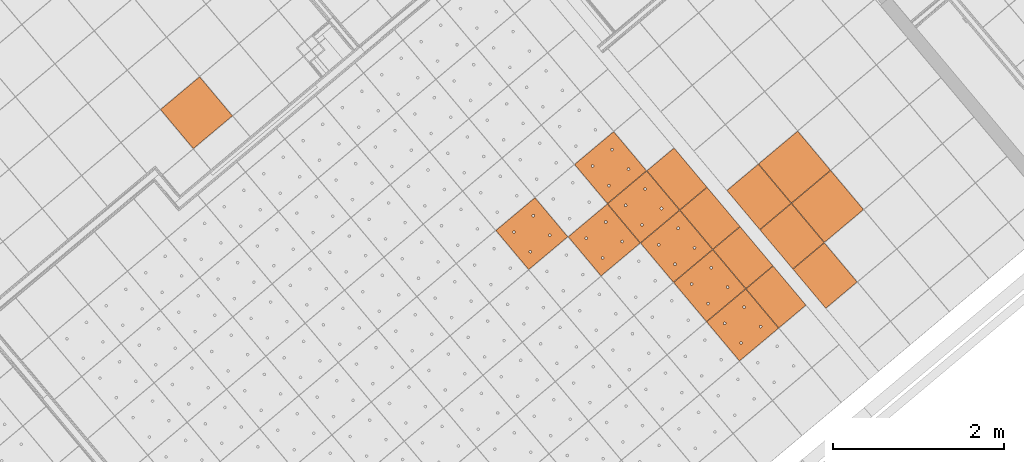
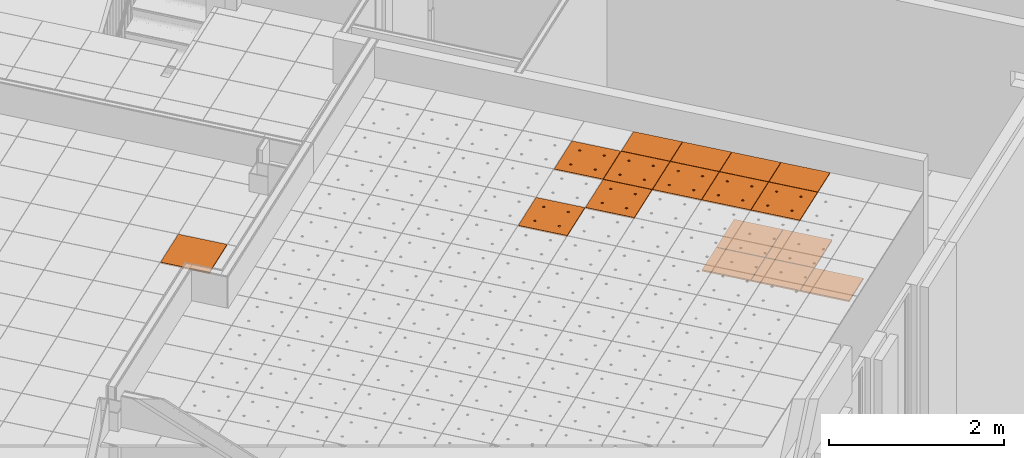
# One storey, part 190 of 338: 17 proxies, 3 elements without a shape of their own.
"""IFC2X3 building model written with IfcOpenShell, lengths in millimetres."""

from ifc_helpers import new_model, entity, si_unit, converted_unit, derived_unit, money_unit, direction, frame, origin_with_axes, place, context, subcontext, project, spatial, faceted_brep, source, transform, mapped, material, type_object, type_shapes, element, aggregate, save


model = new_model("IFC2X3")

# Units and contexts
model_context = context("Model", 3, precision=0.01, world=origin_with_axes(), true_north=direction((0.0, 1.0)))
plan_context = context("Plan", 3, precision=0.01, world=origin_with_axes(), true_north=direction((0.0, 1.0)))
body_context = subcontext(model_context, "Body", "Model", "MODEL_VIEW")
ifc_project = project(units=[si_unit("LENGTHUNIT", "METRE", prefix="MILLI"), si_unit("AREAUNIT", "SQUARE_METRE"), si_unit("VOLUMEUNIT", "CUBIC_METRE"), converted_unit("PLANEANGLEUNIT", "DEGREE", entity("IfcPlaneAngleMeasure", 0.0174532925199), si_unit("PLANEANGLEUNIT", "RADIAN"), dimensions=[0, 0, 0, 0, 0, 0, 0]), money_unit("EUR"), converted_unit("TIMEUNIT", "Year", entity("IfcTimeMeasure", 31556926.0), si_unit("TIMEUNIT", "SECOND"), dimensions=[0, 0, 1, 0, 0, 0, 0]), si_unit("MASSUNIT", "GRAM", prefix="KILO"), si_unit("THERMODYNAMICTEMPERATUREUNIT", "DEGREE_CELSIUS"), si_unit("LUMINOUSINTENSITYUNIT", "LUMEN"), si_unit("ENERGYUNIT", "JOULE", prefix="MEGA"), derived_unit("THERMALCONDUCTANCEUNIT", [(si_unit("POWERUNIT", "WATT"), 1), (si_unit("LENGTHUNIT", "METRE"), -1), (si_unit("THERMODYNAMICTEMPERATUREUNIT", "KELVIN"), -1)]), derived_unit("SPECIFICHEATCAPACITYUNIT", [(si_unit("ENERGYUNIT", "JOULE"), 1), (si_unit("MASSUNIT", "GRAM", prefix="KILO"), -1), (si_unit("THERMODYNAMICTEMPERATUREUNIT", "KELVIN"), -1)]), derived_unit("MASSDENSITYUNIT", [(si_unit("MASSUNIT", "GRAM", prefix="KILO"), 1), (si_unit("VOLUMEUNIT", "CUBIC_METRE"), -1)])], contexts=[model_context, plan_context])

# Site, building, storey
site_placement = place(None, origin_with_axes())
site = spatial("IfcSite", under=ifc_project, at=site_placement, Name="Fortuinstraat Woensdrecht", CompositionType="ELEMENT")
building_placement = place(site_placement, origin_with_axes())
building = spatial("IfcBuilding", under=site, at=building_placement, Name="IKC Fortuna", CompositionType="ELEMENT")
storey_placement = place(building_placement, origin_with_axes())
storey = spatial("IfcBuildingStorey", under=building, at=storey_placement, Name="00 begane grond", CompositionType="ELEMENT", Elevation=0.0)

# Covering, proxies
covering_type = type_object("IfcCoveringType", Name="Curtain Wall Type", PredefinedType="CEILING")
covering_1_placement = place(storey_placement, frame((23826.4460301, -4357.43121765, 2810.0), z_axis=(0.0, 0.0, 1.0), x_axis=(1.0, 0.0, 0.0)))
covering_1 = element("IfcCovering", 1, at=covering_1_placement, inside=storey, type_object=covering_type, Name="45_Plafondafwerking_P02", PredefinedType="CEILING")
ifc_material = material(Name="Gipsplaat")
building_element_proxy_type_1 = type_object("IfcBuildingElementProxyType", Name="Distinct Panel 600 x 600 x 20", PredefinedType="NOTDEFINED")
shared_shape_1 = source(origin_with_axes(), body_context, "Body", "Brep", [
    faceted_brep([(2.49999999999, 2.5, -10.0), (597.5, 2.49999999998, -10.0), (597.5, 2.49999999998, 10.0), (2.49999999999, 2.5, 10.0), (2.50000000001, 597.5, -10.0), (597.5, 597.5, -10.0), (597.5, 597.5, 10.0), (2.50000000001, 597.5, 10.0)], [[[0, 1, 2, 3]], [[0, 4, 5, 1]], [[1, 5, 6, 2]], [[3, 2, 6, 7]], [[4, 0, 3, 7]], [[5, 4, 7, 6]]]),
])
proxy_1_placement = place(covering_1_placement, frame((800.265975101, -111.741309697, 0.0), z_axis=(0.0, 0.0, 1.0), x_axis=(1.0, 0.0, 0.0)))
proxy_1 = element("IfcBuildingElementProxy", 2, at=proxy_1_placement, type_object=building_element_proxy_type_1, material=ifc_material, Name="__Panel-D", context=body_context, shape_type="MappedRepresentation", body=[
    mapped(shared_shape_1, transform((36.9769427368, 422.649625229, 0.0), x_axis=(-0.766044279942, -0.642787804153, 0.0), y_axis=(0.642787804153, -0.766044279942, 0.0), z_axis=(0.0, 0.0, 1.0))),
])
proxy_2_placement = place(covering_1_placement, frame((1185.93865759, -571.367877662, 0.0), z_axis=(0.0, 0.0, 1.0), x_axis=(1.0, 0.0, 0.0)))
proxy_2 = element("IfcBuildingElementProxy", 3, at=proxy_2_placement, type_object=building_element_proxy_type_1, material=ifc_material, Name="__Panel-D", context=body_context, shape_type="MappedRepresentation", body=[
    mapped(shared_shape_1, transform((36.9769427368, 422.649625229, 0.0), x_axis=(-0.766044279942, -0.642787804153, 0.0), y_axis=(0.642787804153, -0.766044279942, 0.0), z_axis=(0.0, 0.0, 1.0))),
])

# Covering, proxy
covering_2_placement = place(storey_placement, frame((17937.1227498, -4186.27868692, 4660.0), z_axis=(0.0, 0.0, 1.0), x_axis=(1.0, 0.0, 0.0)))
covering_2 = element("IfcCovering", 4, at=covering_2_placement, inside=storey, type_object=covering_type, Name="45_Plafondafwerking_P02", PredefinedType="CEILING")
shared_shape_2 = source(origin_with_axes(), body_context, "Body", "Brep", [
    faceted_brep([(2.50000189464, 2.50000510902, -10.0), (597.499994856, 2.50000185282, -10.0), (597.499994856, 2.50000185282, 10.0), (2.50000189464, 2.50000510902, 10.0), (2.4999970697, 597.49998844, -10.0), (597.499988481, 597.500002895, -10.0), (597.499988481, 597.500002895, 10.0), (2.4999970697, 597.49998844, 10.0)], [[[0, 1, 2, 3]], [[0, 4, 5, 1]], [[1, 5, 6, 2]], [[3, 2, 6, 7]], [[4, 0, 3, 7]], [[5, 4, 7, 6]]]),
])
type_shapes(building_element_proxy_type_1, [shared_shape_1, shared_shape_2])
proxy_3_placement = place(covering_2_placement, frame((-295.595072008, 352.276307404, 0.0), z_axis=(0.0, 0.0, 1.0), x_axis=(1.0, 0.0, 0.0)))
proxy_3 = element("IfcBuildingElementProxy", 5, at=proxy_3_placement, type_object=building_element_proxy_type_1, material=ifc_material, Name="__Panel-D", context=body_context, shape_type="MappedRepresentation", body=[
    mapped(shared_shape_2, transform((36.9769427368, 422.649625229, 0.0), x_axis=(-0.766044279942, -0.642787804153, 0.0), y_axis=(0.642787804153, -0.766044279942, 0.0), z_axis=(0.0, 0.0, 1.0))),
])
aggregate(covering_2, [proxy_3])

# Covering, proxies
covering_3_placement = place(storey_placement, frame((19785.7448517, -11392.5753808, 4660.0), z_axis=(0.0, 0.0, 1.0), x_axis=(1.0, 0.0, 0.0)))
covering_3 = element("IfcCovering", 6, at=covering_3_placement, inside=storey, type_object=covering_type, Name="45_Plafondafwerking_P01", PredefinedType="CEILING")
building_element_proxy_type_2 = type_object("IfcBuildingElementProxyType", Name="Main Panel 600 x 600 x 20", PredefinedType="NOTDEFINED")
shared_shape_3 = source(origin_with_axes(), body_context, "Body", "Brep", [
    faceted_brep([(2.49999999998, 2.49999999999, -10.0), (300.0, 2.49999999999, -10.0), (300.0, 2.49999999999, 10.0), (2.49999999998, 2.49999999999, 10.0), (2.49999999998, 300.0, -10.0), (2.49999999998, 597.5, -10.0), (300.0, 597.5, -10.0), (597.5, 597.5, -10.0), (597.5, 300.0, -10.0), (597.5, 2.49999999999, -10.0), (166.25, 450.06232995, -10.0), (165.79423259, 452.64711538, -10.0), (164.896546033, 455.11348892, -10.0), (163.58421608, 457.38651108, -10.0), (161.897117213, 459.39711721, -10.0), (159.886511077, 461.08421608, -10.0), (157.613488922, 462.39654603, -10.0), (155.147115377, 463.29423259, -10.0), (152.562329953, 463.75, -10.0), (149.937670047, 463.75, -10.0), (147.352884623, 463.29423259, -10.0), (144.886511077, 462.39654603, -10.0), (142.613488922, 461.08421608, -10.0), (140.602882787, 459.39711721, -10.0), (138.91578392, 457.38651108, -10.0), (137.603453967, 455.11348892, -10.0), (136.705767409, 452.64711538, -10.0), (136.25, 450.06232995, -10.0), (136.25, 448.75, -10.0), (136.25, 447.43767005, -10.0), (136.705767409, 444.85288462, -10.0), (137.603453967, 442.38651108, -10.0), (138.91578392, 440.11348892, -10.0), (140.602882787, 438.10288279, -10.0), (142.613488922, 436.41578392, -10.0), (144.886511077, 435.10345397, -10.0), (147.352884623, 434.20576741, -10.0), (149.937670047, 433.75, -10.0), (152.562329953, 433.75, -10.0), (155.147115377, 434.20576741, -10.0), (157.613488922, 435.10345397, -10.0), (159.886511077, 436.41578392, -10.0), (161.897117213, 438.10288279, -10.0), (163.58421608, 440.11348892, -10.0), (164.896546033, 442.38651108, -10.0), (165.79423259, 444.85288462, -10.0), (166.25, 447.43767005, -10.0), (463.75, 450.06232995, -10.0), (463.29423259, 452.64711538, -10.0), (462.396546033, 455.11348892, -10.0), (461.08421608, 457.38651108, -10.0), (459.397117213, 459.39711721, -10.0), (457.386511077, 461.08421608, -10.0), (455.113488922, 462.39654603, -10.0), (452.647115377, 463.29423259, -10.0), (450.062329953, 463.75, -10.0), (447.437670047, 463.75, -10.0), (444.852884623, 463.29423259, -10.0), (442.386511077, 462.39654603, -10.0), (440.113488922, 461.08421608, -10.0), (438.102882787, 459.39711721, -10.0), (436.41578392, 457.38651108, -10.0), (435.103453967, 455.11348892, -10.0), (434.205767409, 452.64711538, -10.0), (433.75, 450.06232995, -10.0), (433.75, 448.75, -10.0), (433.75, 447.43767005, -10.0), (434.205767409, 444.85288462, -10.0), (435.103453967, 442.38651108, -10.0), (436.41578392, 440.11348892, -10.0), (438.102882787, 438.10288279, -10.0), (440.113488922, 436.41578392, -10.0), (442.386511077, 435.10345397, -10.0), (444.852884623, 434.20576741, -10.0), (447.437670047, 433.75, -10.0), (450.062329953, 433.75, -10.0), (452.647115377, 434.20576741, -10.0), (455.113488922, 435.10345397, -10.0), (457.386511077, 436.41578392, -10.0), (459.397117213, 438.10288279, -10.0), (461.08421608, 440.11348892, -10.0), (462.396546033, 442.38651108, -10.0), (463.29423259, 444.85288462, -10.0), (463.75, 447.43767005, -10.0), (463.75, 152.56232995, -10.0), (463.29423259, 155.14711538, -10.0), (462.396546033, 157.61348892, -10.0), (461.08421608, 159.88651108, -10.0), (459.397117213, 161.89711721, -10.0), (457.386511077, 163.58421608, -10.0), (455.113488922, 164.89654603, -10.0), (452.647115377, 165.79423259, -10.0), (450.062329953, 166.25, -10.0), (447.437670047, 166.25, -10.0), (444.852884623, 165.79423259, -10.0), (442.386511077, 164.89654603, -10.0), (440.113488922, 163.58421608, -10.0), (438.102882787, 161.89711721, -10.0), (436.41578392, 159.88651108, -10.0), (435.103453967, 157.61348892, -10.0), (434.205767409, 155.14711538, -10.0), (433.75, 152.56232995, -10.0), (433.75, 151.25, -10.0), (433.75, 149.93767005, -10.0), (434.205767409, 147.35288462, -10.0), (435.103453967, 144.88651108, -10.0), (436.41578392, 142.61348892, -10.0), (438.102882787, 140.60288279, -10.0), (440.113488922, 138.91578392, -10.0), (442.386511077, 137.60345397, -10.0), (444.852884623, 136.70576741, -10.0), (447.437670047, 136.25, -10.0), (450.062329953, 136.25, -10.0), (452.647115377, 136.70576741, -10.0), (455.113488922, 137.60345397, -10.0), (457.386511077, 138.91578392, -10.0), (459.397117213, 140.60288279, -10.0), (461.08421608, 142.61348892, -10.0), (462.396546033, 144.88651108, -10.0), (463.29423259, 147.35288462, -10.0), (463.75, 149.93767005, -10.0), (166.25, 152.56232995, -10.0), (165.79423259, 155.14711538, -10.0), (164.896546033, 157.61348892, -10.0), (163.58421608, 159.88651108, -10.0), (161.897117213, 161.89711721, -10.0), (159.886511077, 163.58421608, -10.0), (157.613488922, 164.89654603, -10.0), (155.147115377, 165.79423259, -10.0), (152.562329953, 166.25, -10.0), (149.937670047, 166.25, -10.0), (147.352884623, 165.79423259, -10.0), (144.886511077, 164.89654603, -10.0), (142.613488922, 163.58421608, -10.0), (140.602882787, 161.89711721, -10.0), (138.91578392, 159.88651108, -10.0), (137.603453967, 157.61348892, -10.0), (136.705767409, 155.14711538, -10.0), (136.25, 152.56232995, -10.0), (136.25, 151.25, -10.0), (136.25, 149.93767005, -10.0), (136.705767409, 147.35288462, -10.0), (137.603453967, 144.88651108, -10.0), (138.91578392, 142.61348892, -10.0), (140.602882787, 140.60288279, -10.0), (142.613488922, 138.91578392, -10.0), (144.886511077, 137.60345397, -10.0), (147.352884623, 136.70576741, -10.0), (149.937670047, 136.25, -10.0), (152.562329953, 136.25, -10.0), (155.147115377, 136.70576741, -10.0), (157.613488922, 137.60345397, -10.0), (159.886511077, 138.91578392, -10.0), (161.897117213, 140.60288279, -10.0), (163.58421608, 142.61348892, -10.0), (164.896546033, 144.88651108, -10.0), (165.79423259, 147.35288462, -10.0), (166.25, 149.93767005, -10.0), (597.5, 2.49999999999, 10.0), (597.5, 300.0, 10.0), (597.5, 597.5, 10.0), (300.0, 597.5, 10.0), (2.49999999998, 597.5, 10.0), (2.49999999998, 300.0, 10.0), (166.25, 450.06232995, 10.0), (166.25, 447.43767005, 10.0), (165.79423259, 444.85288462, 10.0), (164.896546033, 442.38651108, 10.0), (163.58421608, 440.11348892, 10.0), (161.897117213, 438.10288279, 10.0), (159.886511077, 436.41578392, 10.0), (157.613488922, 435.10345397, 10.0), (155.147115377, 434.20576741, 10.0), (152.562329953, 433.75, 10.0), (149.937670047, 433.75, 10.0), (147.352884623, 434.20576741, 10.0), (144.886511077, 435.10345397, 10.0), (142.613488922, 436.41578392, 10.0), (140.602882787, 438.10288279, 10.0), (138.91578392, 440.11348892, 10.0), (137.603453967, 442.38651108, 10.0), (136.705767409, 444.85288462, 10.0), (136.25, 447.43767005, 10.0), (136.25, 448.75, 10.0), (136.25, 450.06232995, 10.0), (136.705767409, 452.64711538, 10.0), (137.603453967, 455.11348892, 10.0), (138.91578392, 457.38651108, 10.0), (140.602882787, 459.39711721, 10.0), (142.613488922, 461.08421608, 10.0), (144.886511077, 462.39654603, 10.0), (147.352884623, 463.29423259, 10.0), (149.937670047, 463.75, 10.0), (152.562329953, 463.75, 10.0), (155.147115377, 463.29423259, 10.0), (157.613488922, 462.39654603, 10.0), (159.886511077, 461.08421608, 10.0), (161.897117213, 459.39711721, 10.0), (163.58421608, 457.38651108, 10.0), (164.896546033, 455.11348892, 10.0), (165.79423259, 452.64711538, 10.0), (463.75, 450.06232995, 10.0), (463.75, 447.43767005, 10.0), (463.29423259, 444.85288462, 10.0), (462.396546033, 442.38651108, 10.0), (461.08421608, 440.11348892, 10.0), (459.397117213, 438.10288279, 10.0), (457.386511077, 436.41578392, 10.0), (455.113488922, 435.10345397, 10.0), (452.647115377, 434.20576741, 10.0), (450.062329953, 433.75, 10.0), (447.437670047, 433.75, 10.0), (444.852884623, 434.20576741, 10.0), (442.386511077, 435.10345397, 10.0), (440.113488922, 436.41578392, 10.0), (438.102882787, 438.10288279, 10.0), (436.41578392, 440.11348892, 10.0), (435.103453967, 442.38651108, 10.0), (434.205767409, 444.85288462, 10.0), (433.75, 447.43767005, 10.0), (433.75, 448.75, 10.0), (433.75, 450.06232995, 10.0), (434.205767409, 452.64711538, 10.0), (435.103453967, 455.11348892, 10.0), (436.41578392, 457.38651108, 10.0), (438.102882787, 459.39711721, 10.0), (440.113488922, 461.08421608, 10.0), (442.386511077, 462.39654603, 10.0), (444.852884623, 463.29423259, 10.0), (447.437670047, 463.75, 10.0), (450.062329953, 463.75, 10.0), (452.647115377, 463.29423259, 10.0), (455.113488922, 462.39654603, 10.0), (457.386511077, 461.08421608, 10.0), (459.397117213, 459.39711721, 10.0), (461.08421608, 457.38651108, 10.0), (462.396546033, 455.11348892, 10.0), (463.29423259, 452.64711538, 10.0), (463.75, 152.56232995, 10.0), (463.75, 149.93767005, 10.0), (463.29423259, 147.35288462, 10.0), (462.396546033, 144.88651108, 10.0), (461.08421608, 142.61348892, 10.0), (459.397117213, 140.60288279, 10.0), (457.386511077, 138.91578392, 10.0), (455.113488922, 137.60345397, 10.0), (452.647115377, 136.70576741, 10.0), (450.062329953, 136.25, 10.0), (447.437670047, 136.25, 10.0), (444.852884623, 136.70576741, 10.0), (442.386511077, 137.60345397, 10.0), (440.113488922, 138.91578392, 10.0), (438.102882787, 140.60288279, 10.0), (436.41578392, 142.61348892, 10.0), (435.103453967, 144.88651108, 10.0), (434.205767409, 147.35288462, 10.0), (433.75, 149.93767005, 10.0), (433.75, 151.25, 10.0), (433.75, 152.56232995, 10.0), (434.205767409, 155.14711538, 10.0), (435.103453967, 157.61348892, 10.0), (436.41578392, 159.88651108, 10.0), (438.102882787, 161.89711721, 10.0), (440.113488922, 163.58421608, 10.0), (442.386511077, 164.89654603, 10.0), (444.852884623, 165.79423259, 10.0), (447.437670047, 166.25, 10.0), (450.062329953, 166.25, 10.0), (452.647115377, 165.79423259, 10.0), (455.113488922, 164.89654603, 10.0), (457.386511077, 163.58421608, 10.0), (459.397117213, 161.89711721, 10.0), (461.08421608, 159.88651108, 10.0), (462.396546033, 157.61348892, 10.0), (463.29423259, 155.14711538, 10.0), (166.25, 152.56232995, 10.0), (166.25, 149.93767005, 10.0), (165.79423259, 147.35288462, 10.0), (164.896546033, 144.88651108, 10.0), (163.58421608, 142.61348892, 10.0), (161.897117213, 140.60288279, 10.0), (159.886511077, 138.91578392, 10.0), (157.613488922, 137.60345397, 10.0), (155.147115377, 136.70576741, 10.0), (152.562329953, 136.25, 10.0), (149.937670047, 136.25, 10.0), (147.352884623, 136.70576741, 10.0), (144.886511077, 137.60345397, 10.0), (142.613488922, 138.91578392, 10.0), (140.602882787, 140.60288279, 10.0), (138.91578392, 142.61348892, 10.0), (137.603453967, 144.88651108, 10.0), (136.705767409, 147.35288462, 10.0), (136.25, 149.93767005, 10.0), (136.25, 151.25, 10.0), (136.25, 152.56232995, 10.0), (136.705767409, 155.14711538, 10.0), (137.603453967, 157.61348892, 10.0), (138.91578392, 159.88651108, 10.0), (140.602882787, 161.89711721, 10.0), (142.613488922, 163.58421608, 10.0), (144.886511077, 164.89654603, 10.0), (147.352884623, 165.79423259, 10.0), (149.937670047, 166.25, 10.0), (152.562329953, 166.25, 10.0), (155.147115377, 165.79423259, 10.0), (157.613488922, 164.89654603, 10.0), (159.886511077, 163.58421608, 10.0), (161.897117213, 161.89711721, 10.0), (163.58421608, 159.88651108, 10.0), (164.896546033, 157.61348892, 10.0), (165.79423259, 155.14711538, 10.0)], [[[0, 1, 2, 3]], [[0, 4, 5, 6, 7, 8, 9, 1], [10, 11, 12, 13, 14, 15, 16, 17, 18, 19, 20, 21, 22, 23, 24, 25, 26, 27, 28, 29, 30, 31, 32, 33, 34, 35, 36, 37, 38, 39, 40, 41, 42, 43, 44, 45, 46], [47, 48, 49, 50, 51, 52, 53, 54, 55, 56, 57, 58, 59, 60, 61, 62, 63, 64, 65, 66, 67, 68, 69, 70, 71, 72, 73, 74, 75, 76, 77, 78, 79, 80, 81, 82, 83], [84, 85, 86, 87, 88, 89, 90, 91, 92, 93, 94, 95, 96, 97, 98, 99, 100, 101, 102, 103, 104, 105, 106, 107, 108, 109, 110, 111, 112, 113, 114, 115, 116, 117, 118, 119, 120], [121, 122, 123, 124, 125, 126, 127, 128, 129, 130, 131, 132, 133, 134, 135, 136, 137, 138, 139, 140, 141, 142, 143, 144, 145, 146, 147, 148, 149, 150, 151, 152, 153, 154, 155, 156, 157]], [[1, 9, 158, 2]], [[3, 2, 158, 159, 160, 161, 162, 163], [164, 165, 166, 167, 168, 169, 170, 171, 172, 173, 174, 175, 176, 177, 178, 179, 180, 181, 182, 183, 184, 185, 186, 187, 188, 189, 190, 191, 192, 193, 194, 195, 196, 197, 198, 199, 200], [201, 202, 203, 204, 205, 206, 207, 208, 209, 210, 211, 212, 213, 214, 215, 216, 217, 218, 219, 220, 221, 222, 223, 224, 225, 226, 227, 228, 229, 230, 231, 232, 233, 234, 235, 236, 237], [238, 239, 240, 241, 242, 243, 244, 245, 246, 247, 248, 249, 250, 251, 252, 253, 254, 255, 256, 257, 258, 259, 260, 261, 262, 263, 264, 265, 266, 267, 268, 269, 270, 271, 272, 273, 274], [275, 276, 277, 278, 279, 280, 281, 282, 283, 284, 285, 286, 287, 288, 289, 290, 291, 292, 293, 294, 295, 296, 297, 298, 299, 300, 301, 302, 303, 304, 305, 306, 307, 308, 309, 310, 311]], [[4, 0, 3, 163]], [[5, 4, 163, 162]], [[6, 5, 162, 161]], [[7, 6, 161, 160]], [[8, 7, 160, 159]], [[9, 8, 159, 158]], [[11, 10, 164, 200]], [[12, 11, 200, 199]], [[13, 12, 199, 198]], [[14, 13, 198, 197]], [[15, 14, 197, 196]], [[16, 15, 196, 195]], [[17, 16, 195, 194]], [[18, 17, 194, 193]], [[19, 18, 193, 192]], [[20, 19, 192, 191]], [[21, 20, 191, 190]], [[22, 21, 190, 189]], [[23, 22, 189, 188]], [[24, 23, 188, 187]], [[25, 24, 187, 186]], [[26, 25, 186, 185]], [[27, 26, 185, 184]], [[28, 27, 184, 183]], [[29, 28, 183, 182]], [[30, 29, 182, 181]], [[31, 30, 181, 180]], [[32, 31, 180, 179]], [[33, 32, 179, 178]], [[34, 33, 178, 177]], [[35, 34, 177, 176]], [[36, 35, 176, 175]], [[37, 36, 175, 174]], [[38, 37, 174, 173]], [[39, 38, 173, 172]], [[40, 39, 172, 171]], [[41, 40, 171, 170]], [[42, 41, 170, 169]], [[43, 42, 169, 168]], [[44, 43, 168, 167]], [[45, 44, 167, 166]], [[46, 45, 166, 165]], [[10, 46, 165, 164]], [[48, 47, 201, 237]], [[49, 48, 237, 236]], [[50, 49, 236, 235]], [[51, 50, 235, 234]], [[52, 51, 234, 233]], [[53, 52, 233, 232]], [[54, 53, 232, 231]], [[55, 54, 231, 230]], [[56, 55, 230, 229]], [[57, 56, 229, 228]], [[58, 57, 228, 227]], [[59, 58, 227, 226]], [[60, 59, 226, 225]], [[61, 60, 225, 224]], [[62, 61, 224, 223]], [[63, 62, 223, 222]], [[64, 63, 222, 221]], [[65, 64, 221, 220]], [[66, 65, 220, 219]], [[67, 66, 219, 218]], [[68, 67, 218, 217]], [[69, 68, 217, 216]], [[70, 69, 216, 215]], [[71, 70, 215, 214]], [[72, 71, 214, 213]], [[73, 72, 213, 212]], [[74, 73, 212, 211]], [[75, 74, 211, 210]], [[76, 75, 210, 209]], [[77, 76, 209, 208]], [[78, 77, 208, 207]], [[79, 78, 207, 206]], [[80, 79, 206, 205]], [[81, 80, 205, 204]], [[82, 81, 204, 203]], [[83, 82, 203, 202]], [[47, 83, 202, 201]], [[85, 84, 238, 274]], [[86, 85, 274, 273]], [[87, 86, 273, 272]], [[88, 87, 272, 271]], [[89, 88, 271, 270]], [[90, 89, 270, 269]], [[91, 90, 269, 268]], [[92, 91, 268, 267]], [[93, 92, 267, 266]], [[94, 93, 266, 265]], [[95, 94, 265, 264]], [[96, 95, 264, 263]], [[97, 96, 263, 262]], [[98, 97, 262, 261]], [[99, 98, 261, 260]], [[100, 99, 260, 259]], [[101, 100, 259, 258]], [[102, 101, 258, 257]], [[103, 102, 257, 256]], [[104, 103, 256, 255]], [[105, 104, 255, 254]], [[106, 105, 254, 253]], [[107, 106, 253, 252]], [[108, 107, 252, 251]], [[109, 108, 251, 250]], [[110, 109, 250, 249]], [[111, 110, 249, 248]], [[112, 111, 248, 247]], [[113, 112, 247, 246]], [[114, 113, 246, 245]], [[115, 114, 245, 244]], [[116, 115, 244, 243]], [[117, 116, 243, 242]], [[118, 117, 242, 241]], [[119, 118, 241, 240]], [[120, 119, 240, 239]], [[84, 120, 239, 238]], [[122, 121, 275, 311]], [[123, 122, 311, 310]], [[124, 123, 310, 309]], [[125, 124, 309, 308]], [[126, 125, 308, 307]], [[127, 126, 307, 306]], [[128, 127, 306, 305]], [[129, 128, 305, 304]], [[130, 129, 304, 303]], [[131, 130, 303, 302]], [[132, 131, 302, 301]], [[133, 132, 301, 300]], [[134, 133, 300, 299]], [[135, 134, 299, 298]], [[136, 135, 298, 297]], [[137, 136, 297, 296]], [[138, 137, 296, 295]], [[139, 138, 295, 294]], [[140, 139, 294, 293]], [[141, 140, 293, 292]], [[142, 141, 292, 291]], [[143, 142, 291, 290]], [[144, 143, 290, 289]], [[145, 144, 289, 288]], [[146, 145, 288, 287]], [[147, 146, 287, 286]], [[148, 147, 286, 285]], [[149, 148, 285, 284]], [[150, 149, 284, 283]], [[151, 150, 283, 282]], [[152, 151, 282, 281]], [[153, 152, 281, 280]], [[154, 153, 280, 279]], [[155, 154, 279, 278]], [[156, 155, 278, 277]], [[157, 156, 277, 276]], [[121, 157, 276, 275]]]),
])
type_shapes(building_element_proxy_type_2, [shared_shape_3])
proxy_4_placement = place(covering_3_placement, frame((2692.04035056, 6917.56643408, 0.0), z_axis=(0.0, 0.0, 1.0), x_axis=(1.0, 0.0, 0.0)))
proxy_4 = element("IfcBuildingElementProxy", 7, at=proxy_4_placement, type_object=building_element_proxy_type_2, material=ifc_material, Name="__600x692 Rockfon Krios", context=body_context, shape_type="MappedRepresentation", body=[
    mapped(shared_shape_3, transform((36.9769427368, 422.649625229, 0.0), x_axis=(-0.766044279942, -0.642787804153, 0.0), y_axis=(0.642787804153, -0.766044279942, 0.0), z_axis=(0.0, 0.0, 1.0))),
])
proxy_5_placement = place(covering_3_placement, frame((3077.71303306, 6457.93986612, 0.0), z_axis=(0.0, 0.0, 1.0), x_axis=(1.0, 0.0, 0.0)))
proxy_5 = element("IfcBuildingElementProxy", 8, at=proxy_5_placement, type_object=building_element_proxy_type_2, material=ifc_material, Name="__600x693 Rockfon Krios", context=body_context, shape_type="MappedRepresentation", body=[
    mapped(shared_shape_3, transform((36.9769427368, 422.649625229, 0.0), x_axis=(-0.766044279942, -0.642787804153, 0.0), y_axis=(0.642787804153, -0.766044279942, 0.0), z_axis=(0.0, 0.0, 1.0))),
])
proxy_6_placement = place(covering_3_placement, frame((3463.38571555, 5998.31329815, 0.0), z_axis=(0.0, 0.0, 1.0), x_axis=(1.0, 0.0, 0.0)))
proxy_6 = element("IfcBuildingElementProxy", 9, at=proxy_6_placement, type_object=building_element_proxy_type_2, material=ifc_material, Name="__600x694 Rockfon Krios", context=body_context, shape_type="MappedRepresentation", body=[
    mapped(shared_shape_3, transform((36.9769427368, 422.649625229, 0.0), x_axis=(-0.766044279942, -0.642787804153, 0.0), y_axis=(0.642787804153, -0.766044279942, 0.0), z_axis=(0.0, 0.0, 1.0))),
])
proxy_7_placement = place(covering_3_placement, frame((3849.05839804, 5538.68673019, 0.0), z_axis=(0.0, 0.0, 1.0), x_axis=(1.0, 0.0, 0.0)))
proxy_7 = element("IfcBuildingElementProxy", 10, at=proxy_7_placement, type_object=building_element_proxy_type_2, material=ifc_material, Name="__600x695 Rockfon Krios", context=body_context, shape_type="MappedRepresentation", body=[
    mapped(shared_shape_3, transform((36.9769427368, 422.649625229, 0.0), x_axis=(-0.766044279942, -0.642787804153, 0.0), y_axis=(0.642787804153, -0.766044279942, 0.0), z_axis=(0.0, 0.0, 1.0))),
])
proxy_8_placement = place(covering_3_placement, frame((4234.73108053, 5079.06016222, 0.0), z_axis=(0.0, 0.0, 1.0), x_axis=(1.0, 0.0, 0.0)))
proxy_8 = element("IfcBuildingElementProxy", 11, at=proxy_8_placement, type_object=building_element_proxy_type_2, material=ifc_material, Name="__600x696 Rockfon Krios", context=body_context, shape_type="MappedRepresentation", body=[
    mapped(shared_shape_3, transform((36.9769427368, 422.649625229, 0.0), x_axis=(-0.766044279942, -0.642787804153, 0.0), y_axis=(0.642787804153, -0.766044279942, 0.0), z_axis=(0.0, 0.0, 1.0))),
])
proxy_9_placement = place(covering_3_placement, frame((2618.08646509, 6072.26718363, 0.0), z_axis=(0.0, 0.0, 1.0), x_axis=(1.0, 0.0, 0.0)))
proxy_9 = element("IfcBuildingElementProxy", 12, at=proxy_9_placement, type_object=building_element_proxy_type_2, material=ifc_material, Name="__600x702 Rockfon Krios", context=body_context, shape_type="MappedRepresentation", body=[
    mapped(shared_shape_3, transform((36.9769427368, 422.649625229, 0.0), x_axis=(-0.766044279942, -0.642787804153, 0.0), y_axis=(0.642787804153, -0.766044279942, 0.0), z_axis=(0.0, 0.0, 1.0))),
])
proxy_10_placement = place(covering_3_placement, frame((1772.78721463, 6146.2210691, 0.0), z_axis=(0.0, 0.0, 1.0), x_axis=(1.0, 0.0, 0.0)))
proxy_10 = element("IfcBuildingElementProxy", 13, at=proxy_10_placement, type_object=building_element_proxy_type_2, material=ifc_material, Name="__600x710 Rockfon Krios", context=body_context, shape_type="MappedRepresentation", body=[
    mapped(shared_shape_3, transform((36.9769427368, 422.649625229, 0.0), x_axis=(-0.766044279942, -0.642787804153, 0.0), y_axis=(0.642787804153, -0.766044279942, 0.0), z_axis=(0.0, 0.0, 1.0))),
])
building_element_proxy_type_3 = type_object("IfcBuildingElementProxyType", Name="417 x 600 x 20", PredefinedType="NOTDEFINED")
shared_shape_4 = source(origin_with_axes(), body_context, "Body", "Brep", [
    faceted_brep([(185.001207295, 2.50000606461, -10.0), (597.500001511, 2.50000135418, -10.0), (597.500001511, 2.50000135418, 10.0), (185.001207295, 2.50000606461, 10.0), (185.001212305, 597.499995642, -10.0), (597.500013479, 597.499999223, -10.0), (597.500013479, 597.499999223, 10.0), (185.001212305, 597.499995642, 10.0)], [[[0, 1, 2, 3]], [[0, 4, 5, 1]], [[1, 5, 6, 2]], [[3, 2, 6, 7]], [[4, 0, 3, 7]], [[5, 4, 7, 6]]]),
])
type_shapes(building_element_proxy_type_3, [shared_shape_4])
proxy_11_placement = place(covering_3_placement, frame((3467.43759512, 6784.957771, 0.0), z_axis=(0.0, 0.0, 1.0), x_axis=(1.0, 0.0, 0.0)))
proxy_11 = element("IfcBuildingElementProxy", 14, at=proxy_11_placement, type_object=building_element_proxy_type_3, material=ifc_material, Name="__600x657 Rockfon Krios", context=body_context, shape_type="MappedRepresentation", body=[
    mapped(shared_shape_4, transform((106.878948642, 481.304402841, 0.0), x_axis=(-0.766044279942, -0.642787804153, 0.0), y_axis=(0.642787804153, -0.766044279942, 0.0), z_axis=(0.0, 0.0, 1.0))),
])
proxy_12_placement = place(covering_3_placement, frame((4624.45564259, 5406.0780671, 0.0), z_axis=(0.0, 0.0, 1.0), x_axis=(1.0, 0.0, 0.0)))
proxy_12 = element("IfcBuildingElementProxy", 15, at=proxy_12_placement, type_object=building_element_proxy_type_3, material=ifc_material, Name="__600x735 Rockfon Krios", context=body_context, shape_type="MappedRepresentation", body=[
    mapped(shared_shape_4, transform((106.878948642, 481.304402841, 0.0), x_axis=(-0.766044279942, -0.642787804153, 0.0), y_axis=(0.642787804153, -0.766044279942, 0.0), z_axis=(0.0, 0.0, 1.0))),
])
proxy_13_placement = place(covering_3_placement, frame((4238.7829601, 5865.70463507, 0.0), z_axis=(0.0, 0.0, 1.0), x_axis=(1.0, 0.0, 0.0)))
proxy_13 = element("IfcBuildingElementProxy", 16, at=proxy_13_placement, type_object=building_element_proxy_type_3, material=ifc_material, Name="__600x744 Rockfon Krios", context=body_context, shape_type="MappedRepresentation", body=[
    mapped(shared_shape_4, transform((106.878948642, 481.304402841, 0.0), x_axis=(-0.766044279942, -0.642787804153, 0.0), y_axis=(0.642787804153, -0.766044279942, 0.0), z_axis=(0.0, 0.0, 1.0))),
])
proxy_14_placement = place(covering_3_placement, frame((3853.11027761, 6325.33120303, 0.0), z_axis=(0.0, 0.0, 1.0), x_axis=(1.0, 0.0, 0.0)))
proxy_14 = element("IfcBuildingElementProxy", 17, at=proxy_14_placement, type_object=building_element_proxy_type_3, material=ifc_material, Name="__600x753 Rockfon Krios", context=body_context, shape_type="MappedRepresentation", body=[
    mapped(shared_shape_4, transform((106.878948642, 481.304402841, 0.0), x_axis=(-0.766044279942, -0.642787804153, 0.0), y_axis=(0.642787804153, -0.766044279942, 0.0), z_axis=(0.0, 0.0, 1.0))),
])
aggregate(covering_3, [proxy_11, proxy_4, proxy_5, proxy_6, proxy_7, proxy_8, proxy_9, proxy_10, proxy_12, proxy_13, proxy_14])

# Proxy
building_element_proxy_type_4 = type_object("IfcBuildingElementProxyType", Name="Distinct Panel 482 x 600 x 20", PredefinedType="NOTDEFINED")
shared_shape_5 = source(origin_with_axes(), body_context, "Body", "Brep", [
    faceted_brep([(2.49999759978, 2.5000078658, -10.0), (479.926448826, 2.49999401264, -10.0), (479.926448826, 2.49999401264, 10.0), (2.49999759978, 2.5000078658, 10.0), (2.49999349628, 597.499993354, -10.0), (479.926443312, 597.499995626, -10.0), (479.926443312, 597.499995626, 10.0), (2.49999349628, 597.499993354, 10.0)], [[[0, 1, 2, 3]], [[0, 4, 5, 1]], [[1, 5, 6, 2]], [[3, 2, 6, 7]], [[4, 0, 3, 7]], [[5, 4, 7, 6]]]),
])
proxy_15_placement = place(covering_1_placement, frame((771.345364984, -919.253135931, 0.0), z_axis=(0.0, 0.0, 1.0), x_axis=(1.0, 0.0, 0.0)))
proxy_15 = element("IfcBuildingElementProxy", 18, at=proxy_15_placement, type_object=building_element_proxy_type_4, material=ifc_material, Name="__Panel-D", context=body_context, shape_type="MappedRepresentation", body=[
    mapped(shared_shape_5, transform((-8.05633261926, 384.862201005, 0.0), x_axis=(-0.766044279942, -0.642787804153, 0.0), y_axis=(0.642787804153, -0.766044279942, 0.0), z_axis=(0.0, 0.0, 1.0))),
])

shared_shape_6 = source(origin_with_axes(), body_context, "Body", "Brep", [
    faceted_brep([(2.49998944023, 2.49999814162, -10.0), (479.926448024, 2.49999305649, -10.0), (479.926448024, 2.49999305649, 10.0), (2.49998944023, 2.49999814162, 10.0), (2.49999269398, 597.499992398, -10.0), (479.926442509, 597.49999467, -10.0), (479.926442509, 597.49999467, 10.0), (2.49999269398, 597.499992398, 10.0)], [[[0, 1, 2, 3]], [[0, 4, 5, 1]], [[1, 5, 6, 2]], [[3, 2, 6, 7]], [[4, 0, 3, 7]], [[5, 4, 7, 6]]]),
])
type_shapes(building_element_proxy_type_4, [shared_shape_5, shared_shape_6])
proxy_16_placement = place(covering_1_placement, frame((385.672682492, -459.626567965, 0.0), z_axis=(0.0, 0.0, 1.0), x_axis=(1.0, 0.0, 0.0)))
proxy_16 = element("IfcBuildingElementProxy", 19, at=proxy_16_placement, type_object=building_element_proxy_type_4, material=ifc_material, Name="__Panel-D", context=body_context, shape_type="MappedRepresentation", body=[
    mapped(shared_shape_6, transform((-8.05633261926, 384.862201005, 0.0), x_axis=(-0.766044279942, -0.642787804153, 0.0), y_axis=(0.642787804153, -0.766044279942, 0.0), z_axis=(0.0, 0.0, 1.0))),
])

proxy_17_placement = place(covering_1_placement, frame((1157.01804748, -1378.8797039, 0.0), z_axis=(0.0, 0.0, 1.0), x_axis=(1.0, 0.0, 0.0)))
proxy_17 = element("IfcBuildingElementProxy", 20, at=proxy_17_placement, type_object=building_element_proxy_type_4, material=ifc_material, Name="__Panel-D", context=body_context, shape_type="MappedRepresentation", body=[
    mapped(shared_shape_6, transform((-8.05633261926, 384.862201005, 0.0), x_axis=(-0.766044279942, -0.642787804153, 0.0), y_axis=(0.642787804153, -0.766044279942, 0.0), z_axis=(0.0, 0.0, 1.0))),
])

aggregate(covering_1, [proxy_16, proxy_15, proxy_1, proxy_2, proxy_17])

save(model, "model.ifc")
